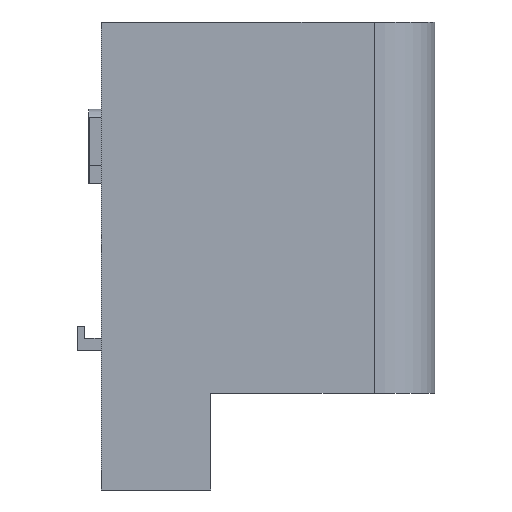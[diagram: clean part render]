
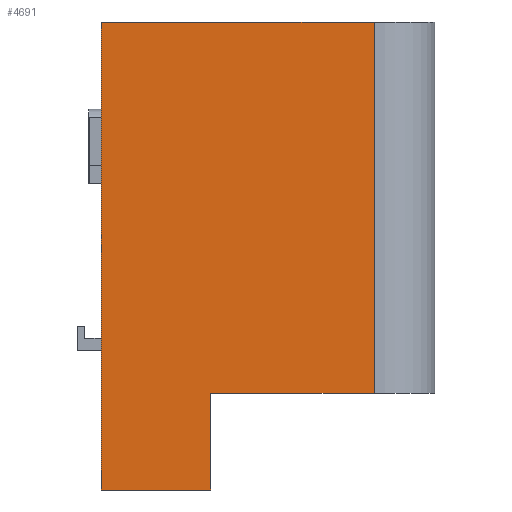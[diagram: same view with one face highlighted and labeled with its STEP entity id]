
A CAD part, left-side view. The second image highlights one B-rep face of the part: STEP entity #4691.
In plain terms, the highlighted planar face has unit normal (-1, 0, 0).
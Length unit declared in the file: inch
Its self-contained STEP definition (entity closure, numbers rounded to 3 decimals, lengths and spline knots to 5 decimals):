
#28 = CARTESIAN_POINT ( 'NONE',  ( -0.75, 0., 3.06 ) ) ;
#167 = VERTEX_POINT ( 'NONE', #245 ) ;
#245 = CARTESIAN_POINT ( 'NONE',  ( -0.75, -2.25, 3.06 ) ) ;
#358 = VERTEX_POINT ( 'NONE', #440 ) ;
#361 = VERTEX_POINT ( 'NONE', #525 ) ;
#440 = CARTESIAN_POINT ( 'NONE',  ( -0.75, -2.25, 0. ) ) ;
#449 = VERTEX_POINT ( 'NONE', #28 ) ;
#525 = CARTESIAN_POINT ( 'NONE',  ( -0.75, -0.9, 0. ) ) ;
#534 = CARTESIAN_POINT ( 'NONE',  ( -0.75, 0., -0.8 ) ) ;
#638 = VERTEX_POINT ( 'NONE', #534 ) ;
#691 = CARTESIAN_POINT ( 'NONE',  ( -0.75, -0.9, -0.8 ) ) ;
#733 = VERTEX_POINT ( 'NONE', #691 ) ;
#950 = LINE ( 'NONE', #6775, #970 ) ;
#968 = LINE ( 'NONE', #6784, #969 ) ;
#969 = VECTOR ( 'NONE', #6667, 39.37008 ) ;
#970 = VECTOR ( 'NONE', #6522, 39.37008 ) ;
#974 = LINE ( 'NONE', #6448, #975 ) ;
#975 = VECTOR ( 'NONE', #6440, 39.37008 ) ;
#976 = LINE ( 'NONE', #6435, #977 ) ;
#977 = VECTOR ( 'NONE', #6548, 39.37008 ) ;
#985 = LINE ( 'NONE', #6762, #993 ) ;
#993 = VECTOR ( 'NONE', #6398, 39.37008 ) ;
#1115 = LINE ( 'NONE', #6552, #1116 ) ;
#1116 = VECTOR ( 'NONE', #6551, 39.37008 ) ;
#1932 = FACE_OUTER_BOUND ( 'NONE', #7828, .T. ) ;
#2212 = ORIENTED_EDGE ( 'NONE', *, *, #4885, .T. ) ;
#2238 = ORIENTED_EDGE ( 'NONE', *, *, #4872, .T. ) ;
#2374 = ORIENTED_EDGE ( 'NONE', *, *, #4875, .T. ) ;
#2375 = ORIENTED_EDGE ( 'NONE', *, *, #4955, .F. ) ;
#2390 = ORIENTED_EDGE ( 'NONE', *, *, #4873, .T. ) ;
#2391 = ORIENTED_EDGE ( 'NONE', *, *, #4876, .F. ) ;
#4419 = AXIS2_PLACEMENT_3D ( 'NONE', #7420, #6881, #6891 ) ;
#4691 = ADVANCED_FACE ( 'NONE', ( #1932 ), #7424, .T. ) ;
#4872 = EDGE_CURVE ( 'NONE', #361, #358, #968, .T. ) ;
#4873 = EDGE_CURVE ( 'NONE', #358, #167, #950, .T. ) ;
#4875 = EDGE_CURVE ( 'NONE', #733, #361, #974, .T. ) ;
#4876 = EDGE_CURVE ( 'NONE', #449, #167, #976, .T. ) ;
#4885 = EDGE_CURVE ( 'NONE', #638, #733, #985, .T. ) ;
#4955 = EDGE_CURVE ( 'NONE', #638, #449, #1115, .T. ) ;
#6398 = DIRECTION ( 'NONE',  ( 0., -1., 0. ) ) ;
#6435 = CARTESIAN_POINT ( 'NONE',  ( -0.75, -1.29617, 3.06 ) ) ;
#6440 = DIRECTION ( 'NONE',  ( 0., 0., 1. ) ) ;
#6448 = CARTESIAN_POINT ( 'NONE',  ( -0.75, -0.9, -0.4 ) ) ;
#6522 = DIRECTION ( 'NONE',  ( 0., 0., 1. ) ) ;
#6548 = DIRECTION ( 'NONE',  ( 0., -1., 0. ) ) ;
#6551 = DIRECTION ( 'NONE',  ( 0., 0., 1. ) ) ;
#6552 = CARTESIAN_POINT ( 'NONE',  ( -0.75, 0., 0. ) ) ;
#6667 = DIRECTION ( 'NONE',  ( 0., -1., 0. ) ) ;
#6762 = CARTESIAN_POINT ( 'NONE',  ( -0.75, -0.45, -0.8 ) ) ;
#6775 = CARTESIAN_POINT ( 'NONE',  ( -0.75, -2.25, 0. ) ) ;
#6784 = CARTESIAN_POINT ( 'NONE',  ( -0.75, -1.29617, 0. ) ) ;
#6881 = DIRECTION ( 'NONE',  ( -1., 0., 0. ) ) ;
#6891 = DIRECTION ( 'NONE',  ( 0., -1., 0. ) ) ;
#7420 = CARTESIAN_POINT ( 'NONE',  ( -0.75, -2.25, 0. ) ) ;
#7424 = PLANE ( 'NONE',  #4419 ) ;
#7828 = EDGE_LOOP ( 'NONE', ( #2238, #2390, #2391, #2375, #2212, #2374 ) ) ;
